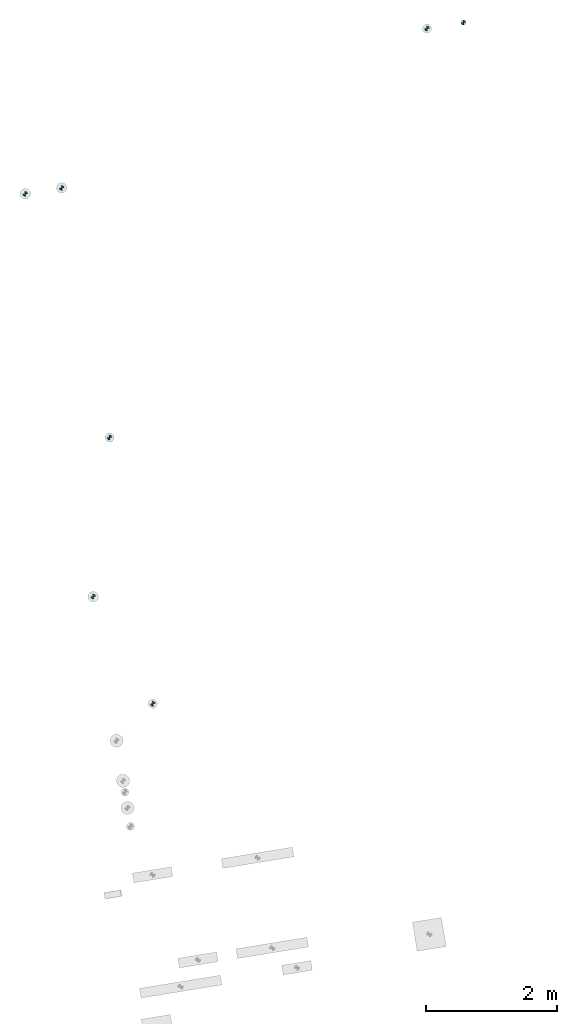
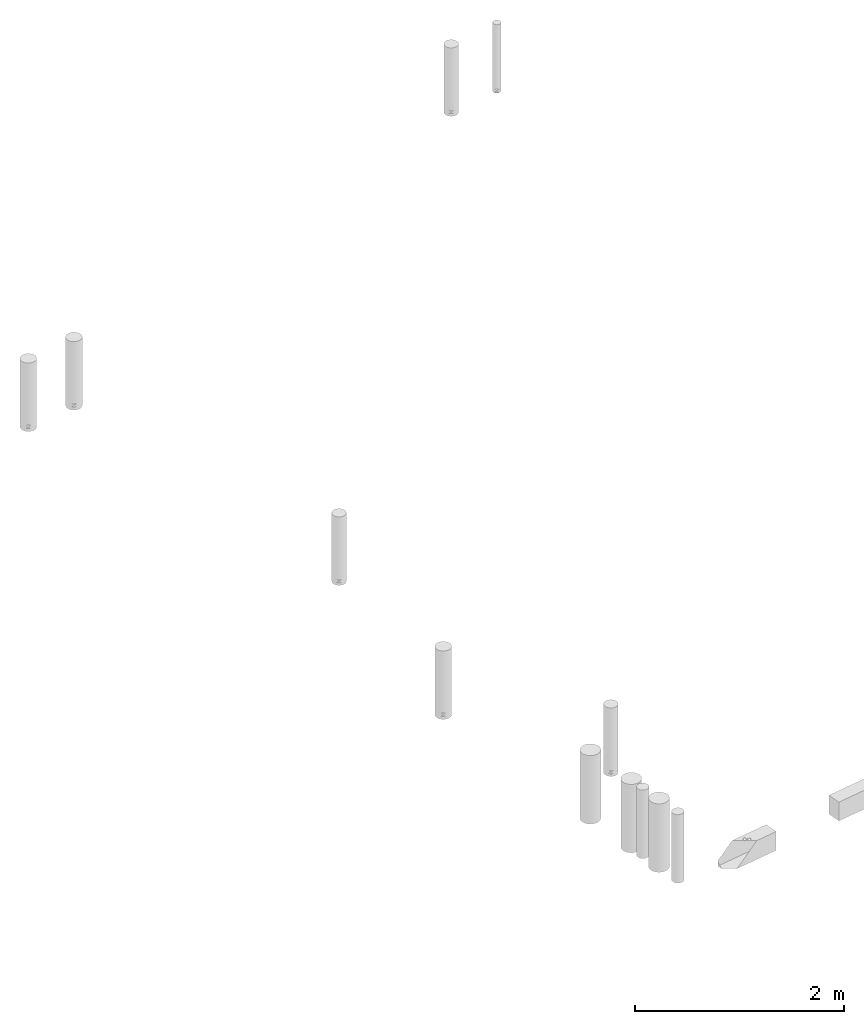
# One storey, part 3 of 4: 7 slabs.
"""IFC2X3 building model written with IfcOpenShell, lengths in millimetres."""

from ifc_helpers import new_model, entity, si_unit, converted_unit, derived_unit, direction, frame, frame_2d, origin, origin_with_axes, place, context, subcontext, project, spatial, polyline, circle_curve, parameter, trimmed, segment, composite_curve, outline, extrude, material, type_object, element, save


model = new_model("IFC2X3")

# Units and contexts
plan_context = context("Plan", 3, precision=1e-05, world=origin_with_axes())
model_context = context("Model", 3, precision=0.01, world=origin(), true_north=direction((6.12323399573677e-17, 1.0)))
body_context = subcontext(model_context, "Body", "Model", "MODEL_VIEW")
ifc_project = project(units=[converted_unit("PLANEANGLEUNIT", "DEGREE", entity("IfcPositiveLengthMeasure", 0.0174532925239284), si_unit("PLANEANGLEUNIT", "RADIAN"), dimensions=[0, 0, 0, 0, 0, 0, 0]), si_unit("AREAUNIT", "SQUARE_METRE"), si_unit("LENGTHUNIT", "METRE", prefix="MILLI"), si_unit("MASSUNIT", "GRAM", prefix="KILO"), si_unit("POWERUNIT", "WATT"), si_unit("PRESSUREUNIT", "PASCAL", prefix="KILO"), si_unit("FORCEUNIT", "NEWTON", prefix="KILO"), si_unit("ELECTRICVOLTAGEUNIT", "VOLT"), si_unit("ELECTRICCURRENTUNIT", "AMPERE"), si_unit("THERMODYNAMICTEMPERATUREUNIT", "DEGREE_CELSIUS"), si_unit("TIMEUNIT", "SECOND"), si_unit("VOLUMEUNIT", "CUBIC_METRE"), derived_unit("LINEARVELOCITYUNIT", [(si_unit("LENGTHUNIT", "METRE"), 1), (si_unit("TIMEUNIT", "SECOND"), -1)]), derived_unit("VOLUMETRICFLOWRATEUNIT", [(si_unit("VOLUMEUNIT", "CUBIC_METRE"), 1), (si_unit("TIMEUNIT", "SECOND"), -1)]), derived_unit("THERMALTRANSMITTANCEUNIT", [(si_unit("POWERUNIT", "WATT"), 1), (si_unit("THERMODYNAMICTEMPERATUREUNIT", "KELVIN"), -1), (si_unit("AREAUNIT", "SQUARE_METRE"), -1)]), derived_unit("SOUNDPRESSUREUNIT", [(si_unit("PRESSUREUNIT", "PASCAL"), 1)])], contexts=[model_context, plan_context])

# Site, building, storey
site_placement = place(None, frame((-0.00071070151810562, 0.00438415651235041, 0.0), z_axis=(0.0, 0.0, 1.0), x_axis=(-0.160236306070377, 0.987078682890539, 0.0)))
site = spatial("IfcSite", under=ifc_project, at=site_placement, Name="Default", CompositionType="ELEMENT")
building_placement = place(site_placement, origin_with_axes())
building = spatial("IfcBuilding", under=site, at=building_placement, CompositionType="ELEMENT")
storey_placement = place(building_placement, frame((0.0, 0.0, 58999.9999999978), z_axis=(0.0, 0.0, 1.0), x_axis=(1.0, 0.0, 0.0)))
storey = spatial("IfcBuildingStorey", under=building, at=storey_placement, Name="Nivå F", CompositionType="ELEMENT", Elevation=58999.9999999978)

# Slabs
ifc_material = material(Name="Black")
slab_type = type_object("IfcSlabType", Name="SurveyMarker:Custom", PredefinedType="BASESLAB", material=ifc_material)
slab_1_placement = place(storey_placement, origin_with_axes())
element("IfcSlab", 1, at=slab_1_placement, inside=storey, type_object=slab_type, Name="SurveyMarker:Custom", ObjectType="SurveyMarker:Custom", PredefinedType="BASESLAB", context=body_context, shape_type="SweptSolid", body=[
    extrude(outline(composite_curve([segment(polyline([(-11.6666666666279, -11.6666666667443), (23.3333333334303, -11.6666666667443)]), True, "CONTINUOUS"), segment(trimmed(circle_curve(frame_2d((-11.6666666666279, -11.6666666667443), x_axis=(0.0, 1.0)), 35.0), [parameter(269.999999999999)], [parameter(359.999999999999)], True, "PARAMETER"), True, "CONTINUOUS"), segment(polyline([(-11.6666666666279, 23.3333333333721), (-11.6666666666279, -11.6666666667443)]), True, "CONTINUOUS")], self_intersect=False)), frame((781195.029585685, -501310.711425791, -800.0), z_axis=(0.0, 0.0, 1.0), x_axis=(0.0, -1.0, 0.0)), (0.0, 0.0, 1.0), 0.799999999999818),
    extrude(outline(composite_curve([segment(polyline([(-11.6666666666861, -11.6666666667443), (23.3333333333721, -11.6666666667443)]), True, "CONTINUOUS"), segment(trimmed(circle_curve(frame_2d((-11.6666666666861, -11.6666666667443), x_axis=(0.0, 1.0)), 35.0), [parameter(269.999999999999)], [parameter(359.999999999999)], True, "PARAMETER"), True, "CONTINUOUS"), segment(polyline([(-11.6666666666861, 23.3333333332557), (-11.6666666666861, -11.6666666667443)]), True, "CONTINUOUS")], self_intersect=False)), frame((781171.696252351, -501287.378092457, -800.0), z_axis=(0.0, 0.0, 1.0), x_axis=(0.0, 1.0, 0.0)), (0.0, 0.0, 1.0), 0.799999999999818),
])
slab_2_placement = place(storey_placement, origin_with_axes())
element("IfcSlab", 2, at=slab_2_placement, inside=storey, type_object=slab_type, Name="SurveyMarker:Custom", ObjectType="SurveyMarker:Custom", PredefinedType="BASESLAB", context=body_context, shape_type="SweptSolid", body=[
    extrude(outline(composite_curve([segment(polyline([(-11.6666666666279, -11.6666666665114), (23.3333333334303, -11.6666666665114)]), True, "CONTINUOUS"), segment(trimmed(circle_curve(frame_2d((-11.6666666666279, -11.6666666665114), x_axis=(0.0, 1.0)), 35.0), [parameter(269.999999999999)], [parameter(359.999999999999)], True, "PARAMETER"), True, "CONTINUOUS"), segment(polyline([(-11.6666666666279, 23.3333333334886), (-11.6666666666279, -11.6666666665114)]), True, "CONTINUOUS")], self_intersect=False)), frame((781195.145355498, -501875.494868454, -800.0), z_axis=(0.0, 0.0, 1.0), x_axis=(0.0, -1.0, 0.0)), (0.0, 0.0, 1.0), 0.799999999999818),
    extrude(outline(composite_curve([segment(polyline([(-11.6666666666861, -11.6666666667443), (23.3333333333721, -11.6666666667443)]), True, "CONTINUOUS"), segment(trimmed(circle_curve(frame_2d((-11.6666666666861, -11.6666666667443), x_axis=(0.0, 1.0)), 35.0), [parameter(269.999999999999)], [parameter(359.999999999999)], True, "PARAMETER"), True, "CONTINUOUS"), segment(polyline([(-11.6666666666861, 23.3333333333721), (-11.6666666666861, -11.6666666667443)]), True, "CONTINUOUS")], self_intersect=False)), frame((781171.812022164, -501852.16153512, -800.0), z_axis=(0.0, 0.0, 1.0), x_axis=(0.0, 1.0, 0.0)), (0.0, 0.0, 1.0), 0.799999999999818),
])
slab_3_placement = place(storey_placement, origin_with_axes())
element("IfcSlab", 3, at=slab_3_placement, inside=storey, type_object=slab_type, Name="SurveyMarker:Custom", ObjectType="SurveyMarker:Custom", PredefinedType="BASESLAB", context=body_context, shape_type="SweptSolid", body=[
    extrude(outline(composite_curve([segment(polyline([(-11.6666666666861, -11.6666666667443), (23.3333333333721, -11.6666666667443)]), True, "CONTINUOUS"), segment(trimmed(circle_curve(frame_2d((-11.6666666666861, -11.6666666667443), x_axis=(0.0, 1.0)), 35.0), [parameter(269.999999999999)], [parameter(359.999999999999)], True, "PARAMETER"), True, "CONTINUOUS"), segment(polyline([(-11.6666666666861, 23.3333333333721), (-11.6666666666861, -11.6666666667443)]), True, "CONTINUOUS")], self_intersect=False)), frame((777313.505313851, -501985.80982381, -800.0), z_axis=(0.0, 0.0, 1.0), x_axis=(0.0, -1.0, 0.0)), (0.0, 0.0, 1.0), 0.799999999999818),
    extrude(outline(composite_curve([segment(polyline([(-11.6666666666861, -11.6666666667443), (23.3333333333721, -11.6666666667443)]), True, "CONTINUOUS"), segment(trimmed(circle_curve(frame_2d((-11.6666666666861, -11.6666666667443), x_axis=(0.0, 1.0)), 35.0), [parameter(269.999999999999)], [parameter(359.999999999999)], True, "PARAMETER"), True, "CONTINUOUS"), segment(polyline([(-11.6666666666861, 23.3333333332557), (-11.6666666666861, -11.6666666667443)]), True, "CONTINUOUS")], self_intersect=False)), frame((777290.171980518, -501962.476490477, -800.0), z_axis=(0.0, 0.0, 1.0), x_axis=(0.0, 1.0, 0.0)), (0.0, 0.0, 1.0), 0.799999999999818),
])
slab_4_placement = place(storey_placement, origin_with_axes())
element("IfcSlab", 4, at=slab_4_placement, inside=storey, type_object=slab_type, Name="SurveyMarker:Custom", ObjectType="SurveyMarker:Custom", PredefinedType="BASESLAB", context=body_context, shape_type="SweptSolid", body=[
    extrude(outline(composite_curve([segment(polyline([(-11.6666666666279, -11.6666666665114), (23.3333333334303, -11.6666666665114)]), True, "CONTINUOUS"), segment(trimmed(circle_curve(frame_2d((-11.6666666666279, -11.6666666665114), x_axis=(0.0, 1.0)), 35.0), [parameter(269.999999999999)], [parameter(359.999999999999)], True, "PARAMETER"), True, "CONTINUOUS"), segment(polyline([(-11.6666666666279, 23.3333333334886), (-11.6666666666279, -11.6666666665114)]), True, "CONTINUOUS")], self_intersect=False)), frame((773193.505313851, -501985.80982381, -800.0), z_axis=(0.0, 0.0, 1.0), x_axis=(0.0, -1.0, 0.0)), (0.0, 0.0, 1.0), 0.799999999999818),
    extrude(outline(composite_curve([segment(polyline([(-11.6666666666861, -11.6666666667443), (23.3333333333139, -11.6666666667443)]), True, "CONTINUOUS"), segment(trimmed(circle_curve(frame_2d((-11.6666666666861, -11.6666666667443), x_axis=(0.0, 1.0)), 35.0), [parameter(269.999999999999)], [parameter(359.999999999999)], True, "PARAMETER"), True, "CONTINUOUS"), segment(polyline([(-11.6666666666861, 23.3333333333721), (-11.6666666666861, -11.6666666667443)]), True, "CONTINUOUS")], self_intersect=False)), frame((773170.171980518, -501962.476490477, -800.0), z_axis=(0.0, 0.0, 1.0), x_axis=(0.0, 1.0, 0.0)), (0.0, 0.0, 1.0), 0.799999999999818),
])
slab_5_placement = place(storey_placement, origin_with_axes())
element("IfcSlab", 5, at=slab_5_placement, inside=storey, type_object=slab_type, Name="SurveyMarker:Custom", ObjectType="SurveyMarker:Custom", PredefinedType="BASESLAB", context=body_context, shape_type="SweptSolid", body=[
    extrude(outline(composite_curve([segment(polyline([(-11.6666666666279, -11.6666666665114), (23.3333333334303, -11.6666666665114)]), True, "CONTINUOUS"), segment(trimmed(circle_curve(frame_2d((-11.6666666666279, -11.6666666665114), x_axis=(0.0, 1.0)), 35.0), [parameter(269.999999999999)], [parameter(359.999999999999)], True, "PARAMETER"), True, "CONTINUOUS"), segment(polyline([(-11.6666666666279, 23.3333333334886), (-11.6666666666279, -11.6666666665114)]), True, "CONTINUOUS")], self_intersect=False)), frame((782704.176940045, -507773.150211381, -800.0), z_axis=(0.0, 0.0, 1.0), x_axis=(0.0, -1.0, 0.0)), (0.0, 0.0, 1.0), 0.799999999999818),
    extrude(outline(composite_curve([segment(polyline([(-11.6666666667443, -11.6666666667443), (23.3333333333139, -11.6666666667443)]), True, "CONTINUOUS"), segment(trimmed(circle_curve(frame_2d((-11.6666666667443, -11.6666666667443), x_axis=(0.0, 1.0)), 35.0), [parameter(269.999999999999)], [parameter(359.999999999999)], True, "PARAMETER"), True, "CONTINUOUS"), segment(polyline([(-11.6666666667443, 23.3333333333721), (-11.6666666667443, -11.6666666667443)]), True, "CONTINUOUS")], self_intersect=False)), frame((782680.843606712, -507749.816878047, -800.0), z_axis=(0.0, 0.0, 1.0), x_axis=(0.0, 1.0, 0.0)), (0.0, 0.0, 1.0), 0.799999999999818),
])
slab_6_placement = place(storey_placement, origin_with_axes())
element("IfcSlab", 6, at=slab_6_placement, inside=storey, type_object=slab_type, Name="SurveyMarker:Custom", ObjectType="SurveyMarker:Custom", PredefinedType="BASESLAB", context=body_context, shape_type="SweptSolid", body=[
    extrude(outline(composite_curve([segment(polyline([(-11.6666666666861, -11.6666666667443), (23.3333333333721, -11.6666666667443)]), True, "CONTINUOUS"), segment(trimmed(circle_curve(frame_2d((-11.6666666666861, -11.6666666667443), x_axis=(0.0, 1.0)), 35.0), [parameter(269.999999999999)], [parameter(359.999999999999)], True, "PARAMETER"), True, "CONTINUOUS"), segment(polyline([(-11.6666666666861, 23.3333333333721), (-11.6666666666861, -11.6666666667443)]), True, "CONTINUOUS")], self_intersect=False)), frame((782704.176940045, -508337.867483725, -800.0), z_axis=(0.0, 0.0, 1.0), x_axis=(0.0, -1.0, 0.0)), (0.0, 0.0, 1.0), 0.799999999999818),
    extrude(outline(composite_curve([segment(polyline([(-11.6666666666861, -11.6666666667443), (23.3333333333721, -11.6666666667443)]), True, "CONTINUOUS"), segment(trimmed(circle_curve(frame_2d((-11.6666666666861, -11.6666666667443), x_axis=(0.0, 1.0)), 35.0), [parameter(269.999999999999)], [parameter(359.999999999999)], True, "PARAMETER"), True, "CONTINUOUS"), segment(polyline([(-11.6666666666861, 23.3333333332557), (-11.6666666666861, -11.6666666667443)]), True, "CONTINUOUS")], self_intersect=False)), frame((782680.843606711, -508314.534150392, -800.0), z_axis=(0.0, 0.0, 1.0), x_axis=(0.0, 1.0, 0.0)), (0.0, 0.0, 1.0), 0.799999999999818),
])
slab_7_placement = place(storey_placement, origin_with_axes())
element("IfcSlab", 7, at=slab_7_placement, inside=storey, type_object=slab_type, Name="SurveyMarker:Custom", ObjectType="SurveyMarker:Custom", PredefinedType="BASESLAB", context=body_context, shape_type="SweptSolid", body=[
    extrude(outline(composite_curve([segment(polyline([(-11.6666666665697, -11.6666666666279), (23.3333333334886, -11.6666666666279)]), True, "CONTINUOUS"), segment(trimmed(circle_curve(frame_2d((-11.6666666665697, -11.6666666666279), x_axis=(0.0, 1.0)), 35.0), [parameter(269.999999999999)], [parameter(359.999999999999)], True, "PARAMETER"), True, "CONTINUOUS"), segment(polyline([(-11.6666666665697, 23.3333333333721), (-11.6666666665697, -11.6666666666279)]), True, "CONTINUOUS")], self_intersect=False)), frame((774954.350581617, -501349.533851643, -800.0), z_axis=(0.0, 0.0, 1.0), x_axis=(0.0, -1.0, 0.0)), (0.0, 0.0, 1.0), 0.799999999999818),
    extrude(outline(composite_curve([segment(polyline([(-11.6666666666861, -11.6666666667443), (23.3333333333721, -11.6666666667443)]), True, "CONTINUOUS"), segment(trimmed(circle_curve(frame_2d((-11.6666666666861, -11.6666666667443), x_axis=(0.0, 1.0)), 35.0), [parameter(269.999999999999)], [parameter(359.999999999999)], True, "PARAMETER"), True, "CONTINUOUS"), segment(polyline([(-11.6666666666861, 23.3333333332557), (-11.6666666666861, -11.6666666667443)]), True, "CONTINUOUS")], self_intersect=False)), frame((774931.017248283, -501326.200518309, -800.0), z_axis=(0.0, 0.0, 1.0), x_axis=(0.0, 1.0, 0.0)), (0.0, 0.0, 1.0), 0.799999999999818),
])

save(model, "model.ifc")
